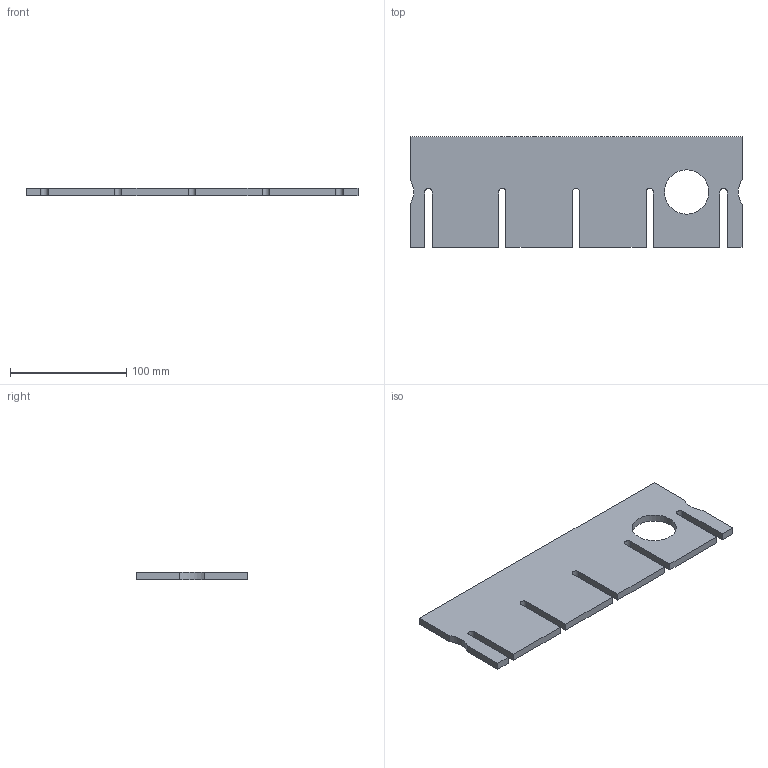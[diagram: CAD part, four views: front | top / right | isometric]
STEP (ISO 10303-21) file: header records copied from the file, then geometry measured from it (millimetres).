
FILE_DESCRIPTION((''),'2;1');
FILE_NAME('M:\jdazai\jdazai_home\private\Inventor Diagrams\maze parts\Waterjet Maze\micemaze_4-piece_holes_xxxo.stp','2014-09-25T09:11:28',('jdazai'),(''),'Autodesk Inventor 2013','Autodesk Inventor 2013','');
FILE_SCHEMA(('AUTOMOTIVE_DESIGN { 1 0 10303 214 1 1 1 1 }'));
Length unit declared in the file: millimetre
Products named in the file (1): Part9
Bounding box: 285.75 x 95.25 x 6.35 mm (x, y, z)
Volume: 154911.9 mm3; surface area: 57545.1 mm2
Topology: 1 solids, 1 shells, 31 faces, 87 edges, 58 vertices
Faces by surface type: plane 23, cylinder 8
Full cylindrical faces by diameter (mm): 38.1 x1
Entity records: 1022 total; most frequent: CARTESIAN_POINT 176, ORIENTED_EDGE 172, DIRECTION 166, EDGE_CURVE 86, VECTOR 70, LINE 70, VERTEX_POINT 58, AXIS2_PLACEMENT_3D 48
